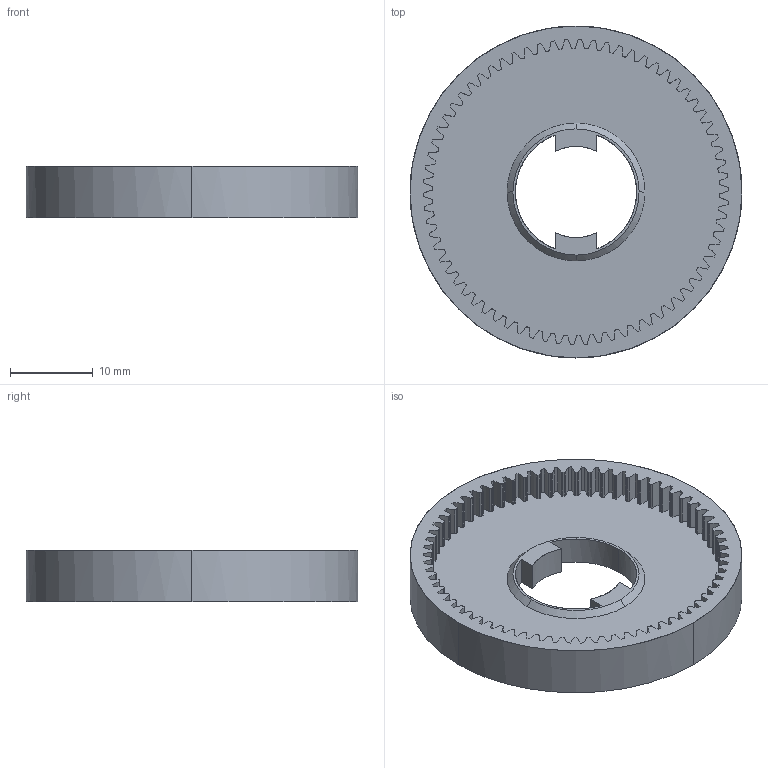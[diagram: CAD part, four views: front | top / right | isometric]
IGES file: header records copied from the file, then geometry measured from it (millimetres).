
Global section: file name: Filename.iges; native system: Open CASCADE 6.1; preprocessor: Open CASCADE IGES processor 6.1; author: Administrator; date: 20130224.214937; units: millimetre
Bounding box: 40 x 40 x 6.2 mm (x, y, z)
Surface area: 3943.4 mm2 (no closed solid volume)
Topology: 0 solids, 0 shells, 442 faces, 2628 edges, 2628 vertices
Faces by surface type: bspline 442
